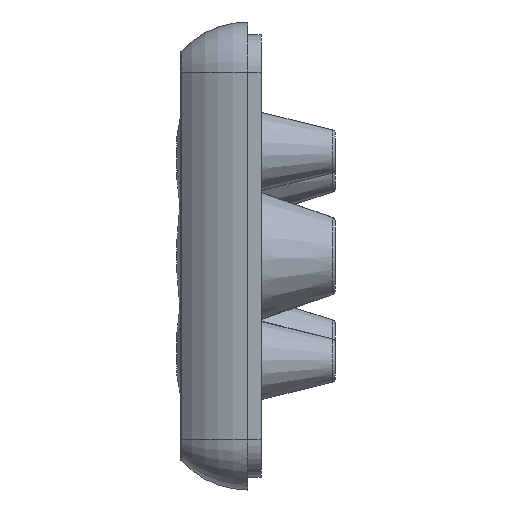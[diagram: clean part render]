
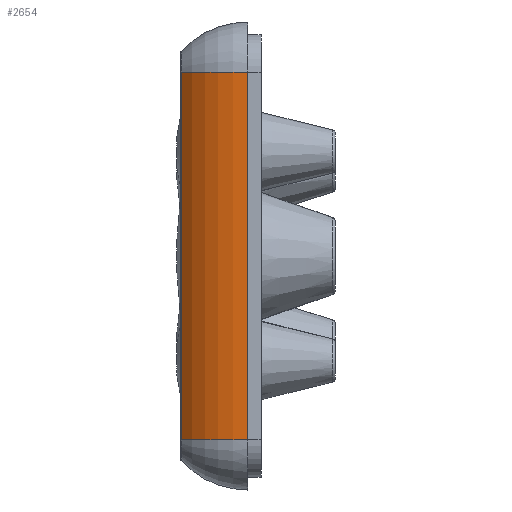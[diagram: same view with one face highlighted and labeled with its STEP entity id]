
A CAD part, left-side view. The second image highlights one B-rep face of the part: STEP entity #2654.
In plain terms, the highlighted cylindrical face has radius 10.893 mm (diameter 21.786 mm), a partial arc.
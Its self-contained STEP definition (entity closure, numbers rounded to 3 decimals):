
#55=CYLINDRICAL_SURFACE('',#3036,10.893);
#185=LINE('',#4948,#237);
#189=LINE('',#4969,#241);
#237=VECTOR('',#3709,1000.);
#241=VECTOR('',#3727,1000.);
#566=ORIENTED_EDGE('',*,*,#1189,.T.);
#567=ORIENTED_EDGE('',*,*,#1181,.T.);
#568=ORIENTED_EDGE('',*,*,#1190,.F.);
#569=ORIENTED_EDGE('',*,*,#1191,.T.);
#1181=EDGE_CURVE('',#1477,#1478,#185,.T.);
#1189=EDGE_CURVE('',#1485,#1477,#1750,.T.);
#1190=EDGE_CURVE('',#1486,#1478,#1751,.T.);
#1191=EDGE_CURVE('',#1486,#1485,#189,.T.);
#1477=VERTEX_POINT('',#4949);
#1478=VERTEX_POINT('',#4950);
#1485=VERTEX_POINT('',#4966);
#1486=VERTEX_POINT('',#4968);
#1750=CIRCLE('',#3037,10.893);
#1751=CIRCLE('',#3038,10.893);
#1930=EDGE_LOOP('',(#566,#567,#568,#569));
#2267=FACE_BOUND('',#1930,.T.);
#2654=ADVANCED_FACE('',(#2267),#55,.T.);
#3036=AXIS2_PLACEMENT_3D('',#4964,#3721,#3722);
#3037=AXIS2_PLACEMENT_3D('',#4965,#3723,#3724);
#3038=AXIS2_PLACEMENT_3D('',#4967,#3725,#3726);
#3709=DIRECTION('',(0.,0.,1.));
#3721=DIRECTION('',(0.,0.,-1.));
#3722=DIRECTION('',(-1.,0.,0.));
#3723=DIRECTION('',(0.,0.,1.));
#3724=DIRECTION('',(1.,0.,0.));
#3725=DIRECTION('',(0.,0.,1.));
#3726=DIRECTION('',(1.,0.,0.));
#3727=DIRECTION('',(0.,0.,-1.));
#4948=CARTESIAN_POINT('',(-77.,0.,-22.));
#4949=CARTESIAN_POINT('',(-77.,0.,-22.));
#4950=CARTESIAN_POINT('',(-77.,0.,22.));
#4964=CARTESIAN_POINT('',(-66.107,0.,22.));
#4965=CARTESIAN_POINT('',(-66.107,0.,-22.));
#4966=CARTESIAN_POINT('',(-73.5,8.,-22.));
#4967=CARTESIAN_POINT('',(-66.107,0.,22.));
#4968=CARTESIAN_POINT('',(-73.5,8.,22.));
#4969=CARTESIAN_POINT('',(-73.5,8.,22.));
